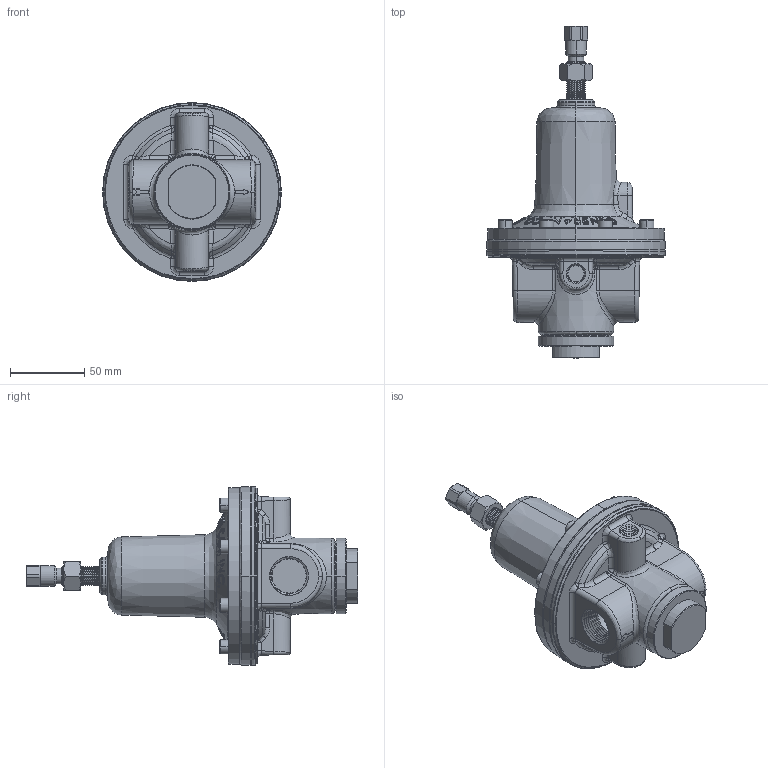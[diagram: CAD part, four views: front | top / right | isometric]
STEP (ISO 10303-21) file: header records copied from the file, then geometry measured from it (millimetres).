
FILE_DESCRIPTION (( 'STEP AP203' ), '1' );
FILE_NAME ('4GDR-6BSPT.STEP', '2013-03-14T15:22:14', ( '' ), ( '' ), 'SwSTEP 2.0', 'SolidWorks 2011', '' );
FILE_SCHEMA (( 'CONFIG_CONTROL_DESIGN' ));
Products named in the file (2): 4GDR-6BSPT; Part1^4GDR-750B_CM
Assembly tree (1 placements, depth 2):
  4GDR-6BSPT
    Part1^4GDR-750B_CM
Bounding box: 120.14 x 223.04 x 120.14 mm (x, y, z)
Volume: 647390.1 mm3; surface area: 68660.3 mm2
Topology: 1 solids, 9 shells, 1187 faces, 2906 edges, 1753 vertices
Faces by surface type: cone 433, plane 341, bspline 224, cylinder 189
Entity records: 47113 total; most frequent: CARTESIAN_POINT 20956, ORIENTED_EDGE 5762, DIRECTION 4978, EDGE_CURVE 2881, AXIS2_PLACEMENT_3D 1945, VERTEX_POINT 1753, EDGE_LOOP 1244, FACE_OUTER_BOUND 1187
